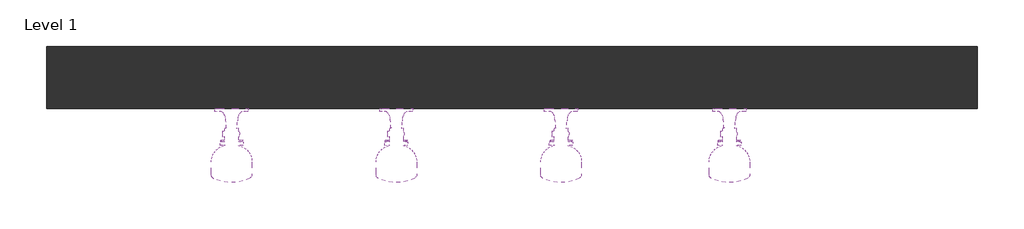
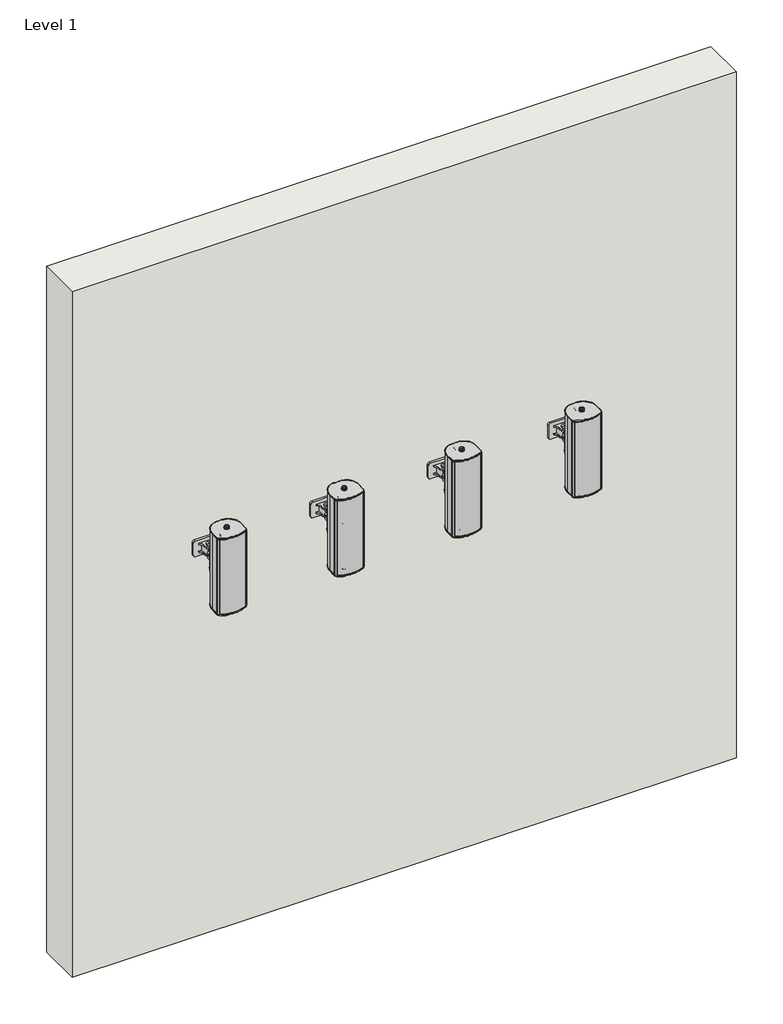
# One storey: 4 proxies, 1 wall.
"""IFC4 building model written with IfcOpenShell, lengths in millimetres."""

from ifc_helpers import new_model, si_unit, origin, origin_with_axes, place, context, project, spatial, polyline, outline, extrude, transform, mapped, element, save
from components import communication_devices_98838bba, communication_devices_a26eadfc

model = new_model("IFC4")

# Units and contexts
model_context = context("Model", 3, world=origin())
ifc_project = project(units=[si_unit("LENGTHUNIT", "METRE", prefix="MILLI")], contexts=[model_context])

# Site, building, storey
site = spatial("IfcSite", under=ifc_project)
building = spatial("IfcBuilding", under=site)
storey = spatial("IfcBuildingStorey", under=building, Name="Level 1", Elevation=0.0)

# Proxies
placement = place(None, origin())
communication_devices_shape = communication_devices_98838bba(model_context)
communication_devices_2_shape = communication_devices_a26eadfc(model_context)
element("IfcBuildingElementProxy", 1, Name="TS-C 10-300_T-EN54 : TS-C 10-300/T-EN54", ObjectType="TS-C 10-300_T-EN54 : TS-C 10-300/T-EN54", at=placement, inside=storey, context=model_context, shape_type="MappedRepresentation", body=[
    mapped(communication_devices_shape, transform((2287.7221782, 1871.6766815, 1270.0000162), x_axis=(1.0, 0.0, 0.0), y_axis=(0.0, 1.0, 0.0), z_axis=(0.0, 0.0, 1.0))),
    mapped(communication_devices_2_shape, transform((2287.7221782, 1871.6766815, 1270.0000162), x_axis=(1.0, 0.0, 0.0), y_axis=(0.0, 1.0, 0.0), z_axis=(0.0, 0.0, 1.0))),
])
element("IfcBuildingElementProxy", 2, Name="TS-C 10-300_T-EN54 : TS-C 10-300/T-EN54", ObjectType="TS-C 10-300_T-EN54 : TS-C 10-300/T-EN54", at=placement, inside=storey, context=model_context, shape_type="MappedRepresentation", body=[
    mapped(communication_devices_shape, transform((2692.247289, 1871.6766815, 1270.0000162), x_axis=(1.0, 0.0, 0.0), y_axis=(0.0, 1.0, 0.0), z_axis=(0.0, 0.0, 1.0))),
    mapped(communication_devices_2_shape, transform((2692.247289, 1871.6766815, 1270.0000162), x_axis=(1.0, 0.0, 0.0), y_axis=(0.0, 1.0, 0.0), z_axis=(0.0, 0.0, 1.0))),
])
element("IfcBuildingElementProxy", 3, Name="TS-C 10-300_T-EN54 : TS-C 10-300/T-EN54", ObjectType="TS-C 10-300_T-EN54 : TS-C 10-300/T-EN54", at=placement, inside=storey, context=model_context, shape_type="MappedRepresentation", body=[
    mapped(communication_devices_shape, transform((3096.7723998, 1871.6766815, 1270.0000162), x_axis=(1.0, 0.0, 0.0), y_axis=(0.0, 1.0, 0.0), z_axis=(0.0, 0.0, 1.0))),
    mapped(communication_devices_2_shape, transform((3096.7723998, 1871.6766815, 1270.0000162), x_axis=(1.0, 0.0, 0.0), y_axis=(0.0, 1.0, 0.0), z_axis=(0.0, 0.0, 1.0))),
])
element("IfcBuildingElementProxy", 4, Name="TS-C 10-300_T-EN54 : TS-C 10-300/T-EN54", ObjectType="TS-C 10-300_T-EN54 : TS-C 10-300/T-EN54", at=placement, inside=storey, context=model_context, shape_type="MappedRepresentation", body=[
    mapped(communication_devices_shape, transform((3510.0723998, 1871.6766815, 1270.0000162), x_axis=(1.0, 0.0, 0.0), y_axis=(0.0, 1.0, 0.0), z_axis=(0.0, 0.0, 1.0))),
    mapped(communication_devices_2_shape, transform((3510.0723998, 1871.6766815, 1270.0000162), x_axis=(1.0, 0.0, 0.0), y_axis=(0.0, 1.0, 0.0), z_axis=(0.0, 0.0, 1.0))),
])

# Wall
element("IfcWall", 5, ObjectType="Exterior - 6\" Generic", at=placement, inside=storey, context=model_context, shape_type="SweptSolid", body=[
    extrude(outline(polyline([(4119.1973575, 1963.1766815), (1833.1973575, 1963.1766815), (1833.1973575, 2115.5766815), (4119.1973575, 2115.5766815), (4119.1973575, 1963.1766815)])), origin_with_axes(), (0.0, 0.0, 1.0), 2495.55),
])

save(model, "model.ifc")
